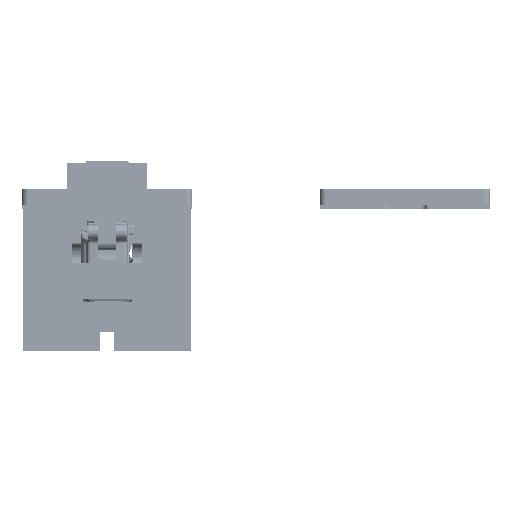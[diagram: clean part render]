
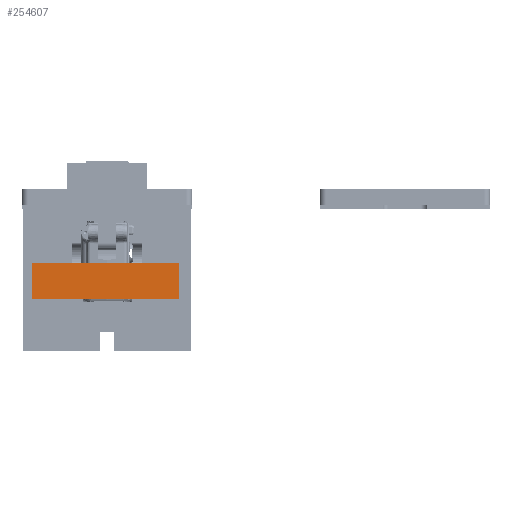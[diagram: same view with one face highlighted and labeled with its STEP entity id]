
A CAD part, left-side view. The second image highlights one B-rep face of the part: STEP entity #254607.
In plain terms, the highlighted planar face has unit normal (-1, 0, 0).
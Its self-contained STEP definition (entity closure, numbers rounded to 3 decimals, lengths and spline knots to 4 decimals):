
#9608=PLANE('',#263077);
#22499=FACE_OUTER_BOUND('',#37085,.T.);
#37085=EDGE_LOOP('',(#229386,#229387,#229388,#229389));
#53181=LINE('',#440656,#76195);
#53247=LINE('',#441143,#76261);
#54686=LINE('',#453425,#77700);
#59785=LINE('',#495901,#82799);
#76195=VECTOR('',#289829,0.3937);
#76261=VECTOR('',#289995,0.3937);
#77700=VECTOR('',#292360,0.3937);
#82799=VECTOR('',#300341,0.3937);
#113392=VERTEX_POINT('',#440653);
#113393=VERTEX_POINT('',#440655);
#113516=VERTEX_POINT('',#441140);
#113517=VERTEX_POINT('',#441142);
#146452=EDGE_CURVE('',#113393,#113392,#53181,.T.);
#146595=EDGE_CURVE('',#113516,#113517,#53247,.T.);
#149084=EDGE_CURVE('',#113517,#113392,#54686,.T.);
#157105=EDGE_CURVE('',#113516,#113393,#59785,.T.);
#229386=ORIENTED_EDGE('',*,*,#146595,.F.);
#229387=ORIENTED_EDGE('',*,*,#157105,.T.);
#229388=ORIENTED_EDGE('',*,*,#146452,.T.);
#229389=ORIENTED_EDGE('',*,*,#149084,.F.);
#254607=ADVANCED_FACE('',(#22499),#9608,.T.);
#263077=AXIS2_PLACEMENT_3D('',#495902,#300342,#300343);
#289829=DIRECTION('',(0.,1.,0.));
#289995=DIRECTION('',(0.,1.,0.));
#292360=DIRECTION('',(0.,0.,1.));
#300341=DIRECTION('',(0.,0.,1.));
#300342=DIRECTION('center_axis',(-1.,0.,0.));
#300343=DIRECTION('ref_axis',(0.,0.,1.));
#440653=CARTESIAN_POINT('',(-14.5232,4.4235,-1.8847));
#440655=CARTESIAN_POINT('',(-14.5232,0.4675,-1.8847));
#440656=CARTESIAN_POINT('',(-14.5232,0.4675,-1.8847));
#441140=CARTESIAN_POINT('',(-14.5232,0.4675,-2.8347));
#441142=CARTESIAN_POINT('',(-14.5232,4.4235,-2.8347));
#441143=CARTESIAN_POINT('',(-14.5232,1.4565,-2.8347));
#453425=CARTESIAN_POINT('',(-14.5232,4.4235,-1.8847));
#495901=CARTESIAN_POINT('',(-14.5232,0.4675,-2.8347));
#495902=CARTESIAN_POINT('Origin',(-14.5232,4.4235,-2.8347));
